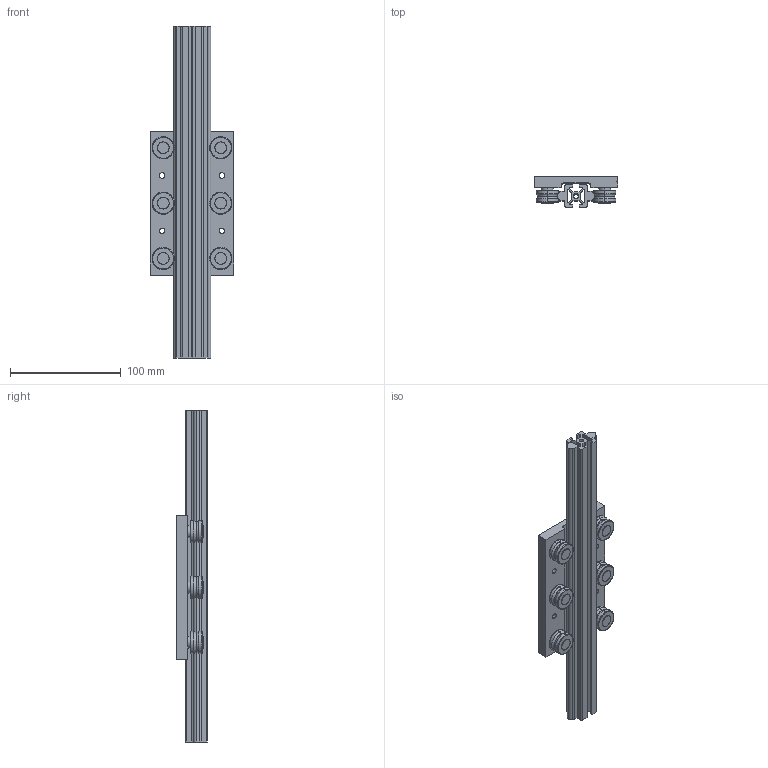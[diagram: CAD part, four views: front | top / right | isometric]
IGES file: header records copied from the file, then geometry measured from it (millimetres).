
Start section: SolidWorks IGES file using analytic representation for surfaces
Bounding box: 75 x 28 x 300 mm (x, y, z)
Surface area: 99962.1 mm2 (no closed solid volume)
Topology: 0 solids, 0 shells, 418 faces, 5730 edges, 5730 vertices
Faces by surface type: revolution 217, bspline 201
